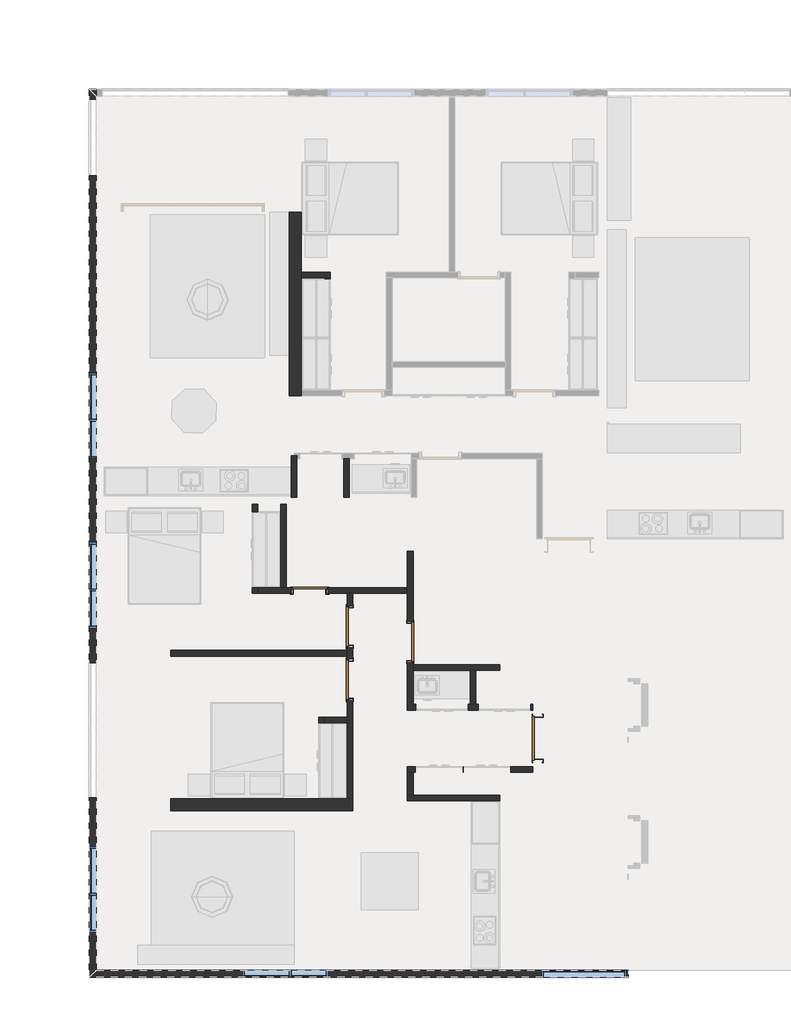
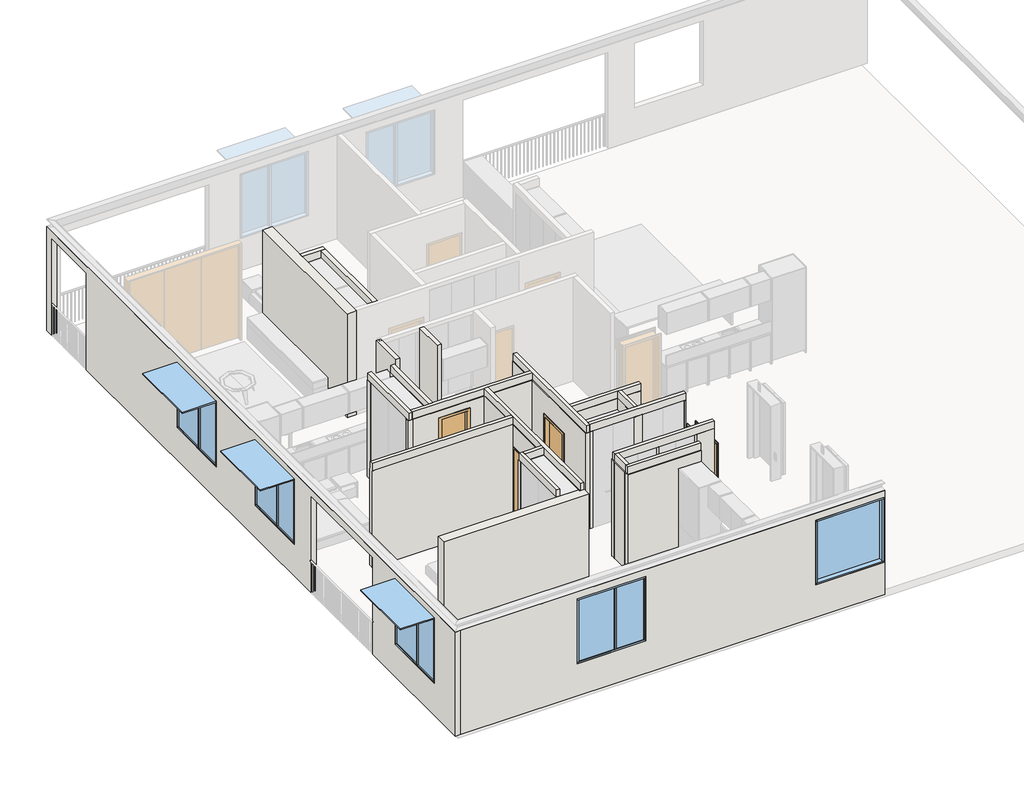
# One storey, part 1 of 5: 22 walls, 5 doors, 5 windows.
"""IFC4 building model written with IfcOpenShell, lengths in millimetres."""

from ifc_helpers import new_model, si_unit, frame, origin, place, context, project, spatial, polyline, outline, extrude, faceted_brep, transform, mapped, element, save
from components import swing_metal_frame_single_dor_92586886, swing_metal_frame_single_dor_60e0689a, swing_metal_frame_single_dor_f69b6a02, swing_metal_frame_single_dor1_3ff59273, window_bottom_hung_window_bottom_hung_09912109, window_bottom_hung_window_bottom_hung_26d81d5b, window_fixed_1800mm_wide_217cd763

model = new_model("IFC4")

# Units and contexts
model_context = context("Model", 3, world=origin())
ifc_project = project(units=[si_unit("LENGTHUNIT", "METRE", prefix="MILLI")], contexts=[model_context])

# Site, building, storey
site = spatial("IfcSite", under=ifc_project)
building = spatial("IfcBuilding", under=site)
storey = spatial("IfcBuildingStorey", under=building, Name="10階", Elevation=57800.0)

# Doors
placement = place(None, origin())
swing_metal_frame_single_dor_shape = swing_metal_frame_single_dor_92586886(model_context)
element("IfcDoor", 1, ObjectType="Swing_Metal Frame_Single_DOR : 2040h x 820 (2110x920 STUD)", at=placement, inside=storey, context=model_context, shape_type="MappedRepresentation", body=[
    mapped(swing_metal_frame_single_dor_shape, transform((7848.3164613, 6296.2680774, 57800.0), x_axis=(0.0, -1.0, 0.0), y_axis=(1.0, 0.0, 0.0), z_axis=(0.0, 0.0, 1.0))),
])
element("IfcDoor", 2, ObjectType="Swing_Metal Frame_Single_DOR : 2040h x 820 (2110x920 STUD)", at=placement, inside=storey, context=model_context, shape_type="MappedRepresentation", body=[
    mapped(swing_metal_frame_single_dor_shape, transform((9116.3164613, 7092.2680774, 57800.0), x_axis=(0.0, 1.0, 0.0), y_axis=(-1.0, 0.0, 0.0), z_axis=(0.0, 0.0, 1.0))),
])
swing_metal_frame_single_dor_2_shape = swing_metal_frame_single_dor_60e0689a(model_context)
element("IfcDoor", 3, ObjectType="Swing_Metal Frame_Single_DOR : 2040h x 820 (2110x920 STUD)", at=placement, inside=storey, context=model_context, shape_type="MappedRepresentation", body=[
    mapped(swing_metal_frame_single_dor_2_shape, transform((7848.3164613, 7414.2680774, 57800.0), x_axis=(0.0, 1.0, 0.0), y_axis=(-1.0, 0.0, 0.0), z_axis=(0.0, 0.0, 1.0))),
])
swing_metal_frame_single_dor_3_shape = swing_metal_frame_single_dor_f69b6a02(model_context)
element("IfcDoor", 4, ObjectType="Swing_Metal Frame_Single_DOR : 2040h x 920 (2110x1020 STUD)", at=placement, inside=storey, context=model_context, shape_type="MappedRepresentation", body=[
    mapped(swing_metal_frame_single_dor_3_shape, transform((11794.6062665, 5066.6339478, 57800.0), x_axis=(0.0, 1.0, 0.0), y_axis=(-1.0, 0.0, 0.0), z_axis=(0.0, 0.0, 1.0))),
])
swing_metal_frame_single_dor1_shape = swing_metal_frame_single_dor1_3ff59273(model_context)
element("IfcDoor", 5, ObjectType="Swing_Metal Frame_Single_DOR1 : 2040h x 720 (2110x820 STUD)", at=placement, inside=storey, context=model_context, shape_type="MappedRepresentation", body=[
    mapped(swing_metal_frame_single_dor1_shape, transform((7002.6057353, 8173.2680774, 57800.0), x_axis=(1.0, 0.0, 0.0), y_axis=(0.0, 1.0, 0.0), z_axis=(0.0, 0.0, 1.0))),
])

# Walls
element("IfcWall", 6, ObjectType="Whte Paint Finish", at=placement, inside=storey, context=model_context, shape_type="SweptSolid", body=[
    extrude(outline(polyline([(57800.0, 2519.6057353), (57800.0, 13694.6062665), (60700.0, 13694.6062665), (60700.0, 2519.6057353), (57800.0, 2519.6057353)]), holes=[polyline([(58700.0, 11869.6062665), (60500.0, 11869.6062665), (60500.0, 13669.6062665), (58700.0, 13669.6062665), (58700.0, 11869.6062665)]), polyline([(58700.0, 7389.6062665), (58700.0, 5589.6062665), (60500.0, 5589.6062665), (60500.0, 7389.6062665), (58700.0, 7389.6062665)])]), frame((0.0, 39.0898177, 0.0), z_axis=(0.0, 1.0, 0.0), x_axis=(0.0, 0.0, 1.0)), (0.0, 0.0, 1.0), 150.0),
])
element("IfcWall", 7, ObjectType="Whte Paint Finish", at=placement, inside=storey, context=model_context, shape_type="Brep", body=[
    faceted_brep([(2369.6057353, 18710.0, 60700.0), (2369.6057353, 39.0898177, 60700.0), (2519.6057353, 39.0898177, 60700.0), (2519.6057353, 189.0898177, 60700.0), (2519.6057353, 9989.7821797, 60700.0), (2519.6057353, 10139.7821797, 60700.0), (2519.6057353, 18560.0, 60700.0), (2519.6057353, 18710.0, 60700.0), (2519.6057353, 39.0898177, 57800.0), (2519.6057353, 189.0898177, 57800.0), (2519.6057353, 3816.2680774, 57800.0), (2519.6057353, 3816.2680774, 60500.0), (2519.6057353, 6650.3166994, 60500.0), (2519.6057353, 6650.3166994, 57800.0), (2519.6057353, 16894.8875971, 57800.0), (2519.6057353, 16894.8875971, 60500.0), (2519.6057353, 18500.0, 60500.0), (2519.6057353, 18500.0, 57800.0), (2519.6057353, 18560.0, 57800.0), (2519.6057353, 18710.0, 57800.0), (2519.6057353, 10950.7680774, 58700.0), (2519.6057353, 10950.7680774, 60500.0), (2519.6057353, 12750.7680774, 60500.0), (2519.6057353, 12750.7680774, 58700.0), (2519.6057353, 990.6340387, 58700.0), (2519.6057353, 990.6340387, 60500.0), (2519.6057353, 2790.6340387, 60500.0), (2519.6057353, 2790.6340387, 58700.0), (2519.6057353, 7385.3166994, 58700.0), (2519.6057353, 7385.3166994, 60500.0), (2519.6057353, 9185.3166994, 60500.0), (2519.6057353, 9185.3166994, 58700.0), (2369.6057353, 18710.0, 57800.0), (2369.6057353, 18500.0, 57800.0), (2369.6057353, 18500.0, 60500.0), (2369.6057353, 16894.8875971, 60500.0), (2369.6057353, 16894.8875971, 57800.0), (2369.6057353, 6650.3166994, 57800.0), (2369.6057353, 6650.3166994, 60500.0), (2369.6057353, 3816.2680774, 60500.0), (2369.6057353, 3816.2680774, 57800.0), (2369.6057353, 39.0898177, 57800.0), (2369.6057353, 10950.7680774, 58700.0), (2369.6057353, 12750.7680774, 58700.0), (2369.6057353, 12750.7680774, 60500.0), (2369.6057353, 10950.7680774, 60500.0), (2369.6057353, 990.6340387, 58700.0), (2369.6057353, 2790.6340387, 58700.0), (2369.6057353, 2790.6340387, 60500.0), (2369.6057353, 990.6340387, 60500.0), (2369.6057353, 7385.3166994, 58700.0), (2369.6057353, 9185.3166994, 58700.0), (2369.6057353, 9185.3166994, 60500.0), (2369.6057353, 7385.3166994, 60500.0)], [[[0, 1, 2, 3, 4, 5, 6, 7]], [[7, 6, 5, 4, 3, 2, 8, 9, 10, 11, 12, 13, 14, 15, 16, 17, 18, 19], [20, 21, 22, 23], [24, 25, 26, 27], [28, 29, 30, 31]], [[1, 0, 32, 33, 34, 35, 36, 37, 38, 39, 40, 41], [42, 43, 44, 45], [46, 47, 48, 49], [50, 51, 52, 53]], [[13, 37, 36, 14]], [[32, 19, 18, 17, 33]], [[10, 9, 8, 41, 40]], [[39, 11, 10, 40]], [[12, 38, 37, 13]], [[11, 39, 38, 12]], [[35, 15, 14, 36]], [[16, 34, 33, 17]], [[15, 35, 34, 16]], [[8, 2, 1, 41]], [[7, 19, 32, 0]], [[21, 20, 42, 45]], [[22, 21, 45, 44]], [[23, 22, 44, 43]], [[20, 23, 43, 42]], [[25, 24, 46, 49]], [[26, 25, 49, 48]], [[27, 26, 48, 47]], [[24, 27, 47, 46]], [[29, 28, 50, 53]], [[30, 29, 53, 52]], [[31, 30, 52, 51]], [[28, 31, 51, 50]]]),
])
element("IfcWall", 8, ObjectType="A2 - Acoustic Type 2", at=placement, inside=storey, context=model_context, shape_type="Brep", body=[
    faceted_brep([(6574.6645991, 16123.7821797, 57800.0), (6574.6645991, 12264.7821797, 57800.0), (6574.6645991, 12264.7821797, 60700.0), (6574.6645991, 16123.7821797, 60700.0), (6824.6645991, 16123.7821797, 57800.0), (6824.6645991, 16123.7821797, 60700.0), (6824.6645991, 14863.7386418, 60700.0), (6824.6645991, 14745.7386418, 60700.0), (6824.6645991, 12382.7821797, 60700.0), (6824.6645991, 12264.7821797, 60700.0), (6824.6645991, 12264.7821797, 57800.0), (6824.6645991, 12382.7821797, 57800.0), (6824.6645991, 14745.7386418, 57800.0), (6824.6645991, 14863.7386418, 57800.0)], [[[0, 1, 2, 3]], [[4, 5, 6, 7, 8, 9, 10, 11, 12, 13]], [[1, 0, 4, 13, 12, 11, 10]], [[3, 2, 9, 8, 7, 6, 5]], [[0, 3, 5, 4]], [[2, 1, 10, 9]]]),
])
element("IfcWall", 9, ObjectType="A2 - Acoustic Type 2", at=placement, inside=storey, context=model_context, shape_type="SweptSolid", body=[
    extrude(outline(polyline([(7907.3164613, 3546.2680774), (4084.6057353, 3546.2680774), (4084.6057353, 3796.2680774), (7189.3164613, 3796.2680774), (7189.3164613, 3794.2680774), (7832.3164613, 3794.2680774), (7832.3164613, 3796.2680774), (7907.3164613, 3796.2680774), (7907.3164613, 3546.2680774)])), frame((0.0, 0.0, 57800.0), z_axis=(0.0, 0.0, 1.0), x_axis=(1.0, 0.0, 0.0)), (0.0, 0.0, 1.0), 2700.0),
])
element("IfcWall", 10, ObjectType="P1 - Partition Type 1", at=placement, inside=storey, context=model_context, shape_type="Brep", body=[
    faceted_brep([(6824.6645991, 14745.7386418, 57800.0), (7316.4954006, 14745.7386418, 57800.0), (7434.4954006, 14745.7386418, 57800.0), (7434.4954006, 14745.7386418, 60700.0), (7316.4954006, 14745.7386418, 60700.0), (6824.6645991, 14745.7386418, 60700.0), (6824.6645991, 14863.7386418, 57800.0), (6824.6645991, 14863.7386418, 60700.0), (7434.4954006, 14863.7386418, 60700.0), (7434.4954006, 14863.7386418, 57800.0)], [[[0, 1, 2, 3, 4, 5]], [[6, 7, 8, 9]], [[2, 1, 0, 6, 9]], [[3, 2, 9, 8]], [[0, 5, 7, 6]], [[5, 4, 3, 8, 7]]]),
])
element("IfcWall", 11, ObjectType="P1 - Partition Type 1", at=placement, inside=storey, context=model_context, shape_type="SweptSolid", body=[
    extrude(outline(polyline([(7836.6062665, 10946.7821797), (7836.6062665, 10139.7821797), (7718.6062665, 10139.7821797), (7718.6062665, 10946.7821797), (7836.6062665, 10946.7821797)])), frame((0.0, 0.0, 57800.0), z_axis=(0.0, 0.0, 1.0), x_axis=(1.0, 0.0, 0.0)), (0.0, 0.0, 1.0), 2900.0),
])
element("IfcWall", 12, ObjectType="P1 - Partition Type 1", at=placement, inside=storey, context=model_context, shape_type="SweptSolid", body=[
    extrude(outline(polyline([(14732.7821797, 60500.0), (12382.7821797, 60500.0), (12382.7821797, 60700.0), (14745.7386418, 60700.0), (14745.7386418, 57800.0), (14732.7821797, 57800.0), (14732.7821797, 60500.0)])), frame((7316.4954006, 0.0, 0.0), z_axis=(1.0, 0.0, 0.0), x_axis=(0.0, 1.0, 0.0)), (0.0, 0.0, 1.0), 118.0),
])
element("IfcWall", 13, ObjectType="P1 - Partition Type 1", at=placement, inside=storey, context=model_context, shape_type="Brep", body=[
    faceted_brep([(6394.6057353, 9989.7821797, 57800.0), (6394.6057353, 8232.2680774, 57800.0), (6394.6057353, 8232.2680774, 60500.0), (6394.6057353, 9989.7821797, 60500.0), (6512.6057353, 8232.2680774, 57800.0), (6512.6057353, 9989.7821797, 57800.0), (6512.6057353, 9989.7821797, 60500.0), (6512.6057353, 8232.2680774, 60500.0), (6499.6057353, 9989.7821797, 60500.0), (6499.6057353, 8232.2680774, 60500.0), (6499.6057353, 9989.7821797, 60700.0), (6499.6057353, 8219.2680774, 60700.0), (6499.6057353, 8219.2680774, 60500.0), (6407.6057353, 8232.2680774, 60500.0), (6407.6057353, 9989.7821797, 60500.0), (6407.6057353, 8219.2680774, 60500.0), (6407.6057353, 8219.2680774, 60700.0), (6407.6057353, 9989.7821797, 60700.0)], [[[0, 1, 2, 3]], [[4, 5, 6, 7]], [[1, 0, 5, 4]], [[7, 6, 8, 9]], [[9, 8, 10, 11, 12]], [[3, 2, 13, 14]], [[14, 13, 15, 16, 17]], [[2, 1, 4, 7, 9, 13]], [[11, 10, 17, 16]], [[15, 13, 9, 12]], [[11, 16, 15, 12]], [[0, 3, 14, 17, 10, 8, 6, 5]]]),
])
element("IfcWall", 14, ObjectType="P1 - Partition Type 1", at=placement, inside=storey, context=model_context, shape_type="Brep", body=[
    faceted_brep([(5794.6057353, 8114.2680774, 57800.0), (5794.6057353, 8114.2680774, 60500.0), (5794.6057353, 8232.2680774, 60500.0), (5794.6057353, 8232.2680774, 57800.0), (5794.6057353, 9989.7821797, 60500.0), (5794.6057353, 9989.7821797, 57800.0), (5794.6057353, 9832.2680774, 57800.0), (5794.6057353, 9832.2680774, 60500.0), (5912.6057353, 8114.2680774, 60500.0), (5912.6057353, 8114.2680774, 57800.0), (5912.6057353, 8232.2680774, 57800.0), (5912.6057353, 8232.2680774, 60500.0), (5912.6057353, 9989.7821797, 57800.0), (5912.6057353, 9989.7821797, 60500.0), (5912.6057353, 9832.2680774, 60500.0), (5912.6057353, 9832.2680774, 57800.0), (5899.6057353, 8127.2680774, 60500.0), (5807.6057353, 8127.2680774, 60500.0), (5807.6057353, 8232.2680774, 60500.0), (5899.6057353, 8232.2680774, 60500.0), (5899.6057353, 8219.2680774, 60500.0), (5899.6057353, 9989.7821797, 60500.0), (5899.6057353, 9832.2680774, 60500.0), (5807.6057353, 9989.7821797, 60500.0), (5807.6057353, 9832.2680774, 60500.0), (5899.6057353, 9989.7821797, 60700.0), (5899.6057353, 8219.2680774, 60700.0), (5899.6057353, 8127.2680774, 60700.0), (5807.6057353, 8127.2680774, 60700.0), (5807.6057353, 9989.7821797, 60700.0)], [[[0, 1, 2, 3]], [[4, 5, 6, 7]], [[8, 9, 10, 11]], [[12, 13, 14, 15]], [[9, 0, 3, 10]], [[5, 12, 15, 6]], [[16, 17, 18, 2, 1, 8, 11, 19, 20]], [[13, 21, 22, 14]], [[23, 4, 7, 24]], [[25, 26, 27, 16, 20, 19, 22, 21]], [[28, 29, 23, 24, 18, 17]], [[24, 22, 19, 18]], [[22, 24, 7, 6, 15, 14]], [[18, 19, 11, 10, 3, 2]], [[1, 0, 9, 8]], [[27, 26, 25, 29, 28]], [[17, 16, 27, 28]], [[5, 4, 23, 29, 25, 21, 13, 12]]]),
])
element("IfcWall", 15, ObjectType="P1 - Partition Type 1", at=placement, inside=storey, context=model_context, shape_type="Brep", body=[
    faceted_brep([(4084.6057353, 6796.2680774, 57800.0), (7789.3164613, 6796.2680774, 57800.0), (7789.3164613, 6796.2680774, 60500.0), (4084.6057353, 6796.2680774, 60500.0), (7789.3164613, 6914.2680774, 57800.0), (4084.6057353, 6914.2680774, 57800.0), (4084.6057353, 6914.2680774, 60500.0), (7789.3164613, 6914.2680774, 60500.0), (4084.6057353, 6809.2680774, 60500.0), (4084.6057353, 6809.2680774, 60700.0), (4084.6057353, 6901.2680774, 60700.0), (4084.6057353, 6901.2680774, 60500.0), (7789.3164613, 6901.2680774, 60500.0), (7802.3164613, 6901.2680774, 60700.0), (7802.3164613, 6901.2680774, 60500.0), (7789.3164613, 6809.2680774, 60500.0), (7802.3164613, 6809.2680774, 60500.0), (7802.3164613, 6809.2680774, 60700.0)], [[[0, 1, 2, 3]], [[4, 5, 6, 7]], [[1, 0, 5, 4]], [[0, 3, 8, 9, 10, 11, 6, 5]], [[7, 6, 11, 12]], [[12, 11, 10, 13, 14]], [[3, 2, 15, 8]], [[8, 15, 16, 17, 9]], [[2, 1, 4, 7, 12, 15]], [[13, 10, 9, 17]], [[16, 15, 12, 14]], [[13, 17, 16, 14]]]),
])
element("IfcWall", 16, ObjectType="P1 - Partition Type 1", at=placement, inside=storey, context=model_context, shape_type="Brep", body=[
    faceted_brep([(7789.3164613, 3746.2680774, 57800.0), (7789.3164613, 3746.2680774, 60500.0), (7789.3164613, 5394.2680774, 60500.0), (7789.3164613, 5512.2680774, 60500.0), (7789.3164613, 6796.2680774, 60500.0), (7789.3164613, 6914.2680774, 60500.0), (7789.3164613, 8114.2680774, 60500.0), (7789.3164613, 8114.2680774, 57800.0), (7789.3164613, 7854.2680774, 57800.0), (7789.3164613, 7854.2680774, 59890.0), (7789.3164613, 6974.2680774, 59890.0), (7789.3164613, 6974.2680774, 57800.0), (7789.3164613, 6914.2680774, 57800.0), (7789.3164613, 6796.2680774, 57800.0), (7789.3164613, 6736.2680774, 57800.0), (7789.3164613, 6736.2680774, 59890.0), (7789.3164613, 5856.2680774, 59890.0), (7789.3164613, 5856.2680774, 57800.0), (7789.3164613, 5512.2680774, 57800.0), (7789.3164613, 5394.2680774, 57800.0), (7907.3164613, 3746.2680774, 60500.0), (7907.3164613, 3746.2680774, 57800.0), (7907.3164613, 5856.2680774, 57800.0), (7907.3164613, 5856.2680774, 59890.0), (7907.3164613, 6736.2680774, 59890.0), (7907.3164613, 6736.2680774, 57800.0), (7907.3164613, 6974.2680774, 57800.0), (7907.3164613, 6974.2680774, 59890.0), (7907.3164613, 7854.2680774, 59890.0), (7907.3164613, 7854.2680774, 57800.0), (7907.3164613, 8114.2680774, 57800.0), (7907.3164613, 8114.2680774, 60500.0), (7894.3164613, 3746.2680774, 60500.0), (7894.3164613, 3746.2680774, 60700.0), (7802.3164613, 3746.2680774, 60700.0), (7802.3164613, 3746.2680774, 60500.0), (7894.3164613, 8114.2680774, 60500.0), (7894.3164613, 8127.2680774, 60500.0), (7894.3164613, 8127.2680774, 60700.0), (7802.3164613, 5407.2680774, 60500.0), (7802.3164613, 5499.2680774, 60500.0), (7802.3164613, 6809.2680774, 60500.0), (7802.3164613, 6901.2680774, 60500.0), (7802.3164613, 8114.2680774, 60500.0), (7802.3164613, 5407.2680774, 60700.0), (7802.3164613, 5499.2680774, 60700.0), (7802.3164613, 6809.2680774, 60700.0), (7802.3164613, 6901.2680774, 60700.0), (7802.3164613, 8127.2680774, 60700.0), (7802.3164613, 8127.2680774, 60500.0)], [[[0, 1, 2, 3, 4, 5, 6, 7, 8, 9, 10, 11, 12, 13, 14, 15, 16, 17, 18, 19]], [[20, 21, 22, 23, 24, 25, 26, 27, 28, 29, 30, 31]], [[21, 0, 19, 18, 17, 22]], [[25, 14, 13, 12, 11, 26]], [[7, 30, 29, 8]], [[1, 0, 21, 20, 32, 33, 34, 35]], [[20, 31, 36, 32]], [[33, 32, 36, 37, 38]], [[6, 5, 4, 3, 2, 1, 35, 39, 40, 41, 42, 43]], [[43, 42, 41, 40, 39, 35, 34, 44, 45, 46, 47, 48, 49]], [[34, 33, 38, 48, 47, 46, 45, 44]], [[16, 23, 22, 17]], [[23, 16, 15, 24]], [[24, 15, 14, 25]], [[28, 9, 8, 29]], [[9, 28, 27, 10]], [[10, 27, 26, 11]], [[7, 6, 43, 36, 31, 30]], [[37, 36, 43, 49]], [[48, 38, 37, 49]]]),
])
element("IfcWall", 17, ObjectType="P1 - Partition Type 1", at=placement, inside=storey, context=model_context, shape_type="Brep", body=[
    faceted_brep([(9116.3164613, 8232.2680774, 60500.0), (9116.3164613, 8232.2680774, 57800.0), (7392.6057353, 8232.2680774, 57800.0), (7392.6057353, 8232.2680774, 60290.0), (6612.6057353, 8232.2680774, 60290.0), (6612.6057353, 8232.2680774, 57800.0), (6512.6057353, 8232.2680774, 57800.0), (6394.6057353, 8232.2680774, 57800.0), (5912.6057353, 8232.2680774, 57800.0), (5912.6057353, 8232.2680774, 60500.0), (6394.6057353, 8232.2680774, 60500.0), (6407.6057353, 8232.2680774, 60500.0), (6499.6057353, 8232.2680774, 60500.0), (6512.6057353, 8232.2680774, 60500.0), (9116.3164613, 8114.2680774, 57800.0), (9116.3164613, 8114.2680774, 60500.0), (7907.3164613, 8114.2680774, 60500.0), (7894.3164613, 8114.2680774, 60500.0), (7802.3164613, 8114.2680774, 60500.0), (7789.3164613, 8114.2680774, 60500.0), (5912.6057353, 8114.2680774, 60500.0), (5912.6057353, 8114.2680774, 57800.0), (6612.6057353, 8114.2680774, 57800.0), (6612.6057353, 8114.2680774, 60290.0), (7392.6057353, 8114.2680774, 60290.0), (7392.6057353, 8114.2680774, 57800.0), (7789.3164613, 8114.2680774, 57800.0), (7907.3164613, 8114.2680774, 57800.0), (9116.3164613, 8219.2680774, 60500.0), (9116.3164613, 8219.2680774, 60700.0), (9116.3164613, 8127.2680774, 60700.0), (9116.3164613, 8127.2680774, 60500.0), (7894.3164613, 8127.2680774, 60500.0), (7802.3164613, 8127.2680774, 60500.0), (5912.6057353, 8127.2680774, 60500.0), (7894.3164613, 8127.2680774, 60700.0), (7802.3164613, 8127.2680774, 60700.0), (5899.6057353, 8127.2680774, 60700.0), (5899.6057353, 8127.2680774, 60500.0), (5912.6057353, 8219.2680774, 60500.0), (6407.6057353, 8219.2680774, 60500.0), (6499.6057353, 8219.2680774, 60500.0), (5899.6057353, 8219.2680774, 60500.0), (5899.6057353, 8219.2680774, 60700.0), (6407.6057353, 8219.2680774, 60700.0), (6499.6057353, 8219.2680774, 60700.0)], [[[0, 1, 2, 3, 4, 5, 6, 7, 8, 9, 10, 11, 12, 13]], [[14, 15, 16, 17, 18, 19, 20, 21, 22, 23, 24, 25, 26, 27]], [[1, 14, 27, 26, 25, 2]], [[5, 22, 21, 8, 7, 6]], [[1, 0, 28, 29, 30, 31, 15, 14]], [[15, 31, 32, 33, 34, 20, 19, 18, 17, 16]], [[31, 30, 35, 36, 37, 38, 34, 33, 32]], [[28, 0, 13, 12, 11, 10, 9, 39, 40, 41]], [[29, 28, 41, 40, 39, 42, 43, 44, 45]], [[3, 2, 25, 24]], [[4, 3, 24, 23]], [[5, 4, 23, 22]], [[9, 8, 21, 20, 34, 39]], [[30, 29, 45, 44, 43, 37, 36, 35]], [[42, 39, 34, 38]], [[37, 43, 42, 38]]]),
])
element("IfcWall", 18, ObjectType="P1 - Partition Type 1", at=placement, inside=storey, context=model_context, shape_type="Brep", body=[
    faceted_brep([(7189.3164613, 5512.2680774, 60500.0), (7189.3164613, 5512.2680774, 57800.0), (7189.3164613, 5394.2680774, 57800.0), (7189.3164613, 5394.2680774, 60500.0), (7307.3164613, 5512.2680774, 57800.0), (7307.3164613, 5512.2680774, 60500.0), (7307.3164613, 5394.2680774, 60500.0), (7307.3164613, 5394.2680774, 57800.0), (7202.3164613, 5499.2680774, 60500.0), (7294.3164613, 5499.2680774, 60500.0), (7294.3164613, 5407.2680774, 60500.0), (7294.3164613, 5394.2680774, 60500.0), (7202.3164613, 5394.2680774, 60500.0), (7294.3164613, 5499.2680774, 60700.0), (7294.3164613, 5407.2680774, 60700.0), (7294.3164613, 3796.2680774, 60700.0), (7294.3164613, 3796.2680774, 60500.0), (7202.3164613, 3796.2680774, 60700.0), (7202.3164613, 5499.2680774, 60700.0), (7202.3164613, 3796.2680774, 60500.0)], [[[0, 1, 2, 3]], [[4, 5, 6, 7]], [[1, 4, 7, 2]], [[8, 9, 10, 11, 6, 5, 0, 3, 12]], [[13, 14, 15, 16, 11, 10, 9]], [[17, 18, 8, 12, 19]], [[12, 11, 16, 19]], [[11, 12, 3, 2, 7, 6]], [[1, 0, 5, 4]], [[16, 15, 17, 19]], [[15, 14, 13, 18, 17]], [[9, 8, 18, 13]]]),
])
element("IfcWall", 19, ObjectType="P1 - Partition Type 1", at=placement, inside=storey, context=model_context, shape_type="Brep", body=[
    faceted_brep([(7307.3164613, 5394.2680774, 57800.0), (7789.3164613, 5394.2680774, 57800.0), (7789.3164613, 5394.2680774, 60500.0), (7307.3164613, 5394.2680774, 60500.0), (7789.3164613, 5512.2680774, 57800.0), (7307.3164613, 5512.2680774, 57800.0), (7307.3164613, 5512.2680774, 60500.0), (7789.3164613, 5512.2680774, 60500.0), (7307.3164613, 5499.2680774, 60500.0), (7789.3164613, 5499.2680774, 60500.0), (7294.3164613, 5499.2680774, 60500.0), (7294.3164613, 5499.2680774, 60700.0), (7802.3164613, 5499.2680774, 60700.0), (7802.3164613, 5499.2680774, 60500.0), (7789.3164613, 5407.2680774, 60500.0), (7307.3164613, 5407.2680774, 60500.0), (7802.3164613, 5407.2680774, 60500.0), (7802.3164613, 5407.2680774, 60700.0), (7294.3164613, 5407.2680774, 60700.0), (7294.3164613, 5407.2680774, 60500.0)], [[[0, 1, 2, 3]], [[4, 5, 6, 7]], [[1, 0, 5, 4]], [[7, 6, 8, 9]], [[9, 8, 10, 11, 12, 13]], [[3, 2, 14, 15]], [[15, 14, 16, 17, 18, 19]], [[2, 1, 4, 7, 9, 14]], [[0, 3, 15, 8, 6, 5]], [[18, 17, 12, 11]], [[16, 14, 9, 13]], [[12, 17, 16, 13]], [[10, 8, 15, 19]], [[18, 11, 10, 19]]]),
])
element("IfcWall", 20, ObjectType="P1 - Partition Type 1", at=placement, inside=storey, context=model_context, shape_type="Brep", body=[
    faceted_brep([(9057.3164613, 3755.0, 57800.0), (10994.6062665, 3755.0, 57800.0), (10994.6062665, 3755.0, 60500.0), (9057.3164613, 3755.0, 60500.0), (10994.6062665, 3873.0, 57800.0), (9175.3164613, 3873.0, 57800.0), (9057.3164613, 3873.0, 57800.0), (9057.3164613, 3873.0, 60500.0), (9175.3164613, 3873.0, 60500.0), (10994.6062665, 3873.0, 60500.0), (10994.6062665, 3768.0, 60500.0), (9070.3164613, 3768.0, 60500.0), (9070.3164613, 3860.0, 60500.0), (9162.3164613, 3860.0, 60500.0), (10994.6062665, 3860.0, 60500.0), (10994.6062665, 3860.0, 60700.0), (9070.3164613, 3860.0, 60700.0), (9162.3164613, 3860.0, 60700.0), (10994.6062665, 3768.0, 60700.0), (9070.3164613, 3768.0, 60700.0)], [[[0, 1, 2, 3]], [[4, 5, 6, 7, 8, 9]], [[1, 0, 6, 5, 4]], [[9, 8, 7, 3, 2, 10, 11, 12, 13, 14]], [[15, 14, 13, 12, 16, 17]], [[10, 18, 19, 11]], [[0, 3, 7, 6]], [[12, 11, 19, 16]], [[2, 1, 4, 9, 14, 15, 18, 10]], [[18, 15, 17, 16, 19]]]),
])
element("IfcWall", 21, ObjectType="P1 - Partition Type 1", at=placement, inside=storey, context=model_context, shape_type="Brep", body=[
    faceted_brep([(9175.3164613, 6496.2680774, 57800.0), (10375.3164613, 6496.2680774, 57800.0), (10493.3164613, 6496.2680774, 57800.0), (10994.6062665, 6496.2680774, 57800.0), (10994.6062665, 6496.2680774, 60500.0), (10493.3164613, 6496.2680774, 60500.0), (10375.3164613, 6496.2680774, 60500.0), (9175.3164613, 6496.2680774, 60500.0), (10994.6062665, 6614.2680774, 57800.0), (9175.3164613, 6614.2680774, 57800.0), (9175.3164613, 6614.2680774, 60500.0), (10994.6062665, 6614.2680774, 60500.0), (9175.3164613, 6601.2680774, 60500.0), (10994.6062665, 6601.2680774, 60500.0), (10994.6062665, 6601.2680774, 60700.0), (9162.3164613, 6601.2680774, 60500.0), (9162.3164613, 6601.2680774, 60700.0), (10994.6062665, 6509.2680774, 60500.0), (10480.3164613, 6509.2680774, 60500.0), (10388.3164613, 6509.2680774, 60500.0), (9175.3164613, 6509.2680774, 60500.0), (10994.6062665, 6509.2680774, 60700.0), (10480.3164613, 6509.2680774, 60700.0), (10388.3164613, 6509.2680774, 60700.0), (9162.3164613, 6509.2680774, 60700.0), (9162.3164613, 6509.2680774, 60500.0)], [[[0, 1, 2, 3, 4, 5, 6, 7]], [[8, 9, 10, 11]], [[3, 2, 1, 0, 9, 8]], [[11, 10, 12, 13]], [[14, 13, 12, 15, 16]], [[7, 6, 5, 4, 17, 18, 19, 20]], [[20, 19, 18, 17, 21, 22, 23, 24, 25]], [[0, 7, 20, 12, 10, 9]], [[15, 12, 20, 25]], [[24, 16, 15, 25]], [[4, 3, 8, 11, 13, 14, 21, 17]], [[24, 23, 22, 21, 14, 16]]]),
])
element("IfcWall", 22, ObjectType="P1 - Partition Type 1", at=placement, inside=storey, context=model_context, shape_type="Brep", body=[
    faceted_brep([(9057.3164613, 5660.2678956, 60500.0), (9057.3164613, 8996.2680774, 60500.0), (9057.3164613, 8996.2680774, 57800.0), (9057.3164613, 7532.2680774, 57800.0), (9057.3164613, 7532.2680774, 59890.0), (9057.3164613, 6652.2680774, 59890.0), (9057.3164613, 6652.2680774, 57800.0), (9057.3164613, 5660.2678956, 57800.0), (9175.3164613, 8996.2680774, 60500.0), (9175.3164613, 6614.2680774, 60500.0), (9175.3164613, 6496.2680774, 60500.0), (9175.3164613, 5778.2678956, 60500.0), (9175.3164613, 5660.2678956, 60500.0), (9175.3164613, 5660.2678956, 57800.0), (9175.3164613, 5778.2678956, 57800.0), (9175.3164613, 6496.2680774, 57800.0), (9175.3164613, 6614.2680774, 57800.0), (9175.3164613, 6652.2680774, 57800.0), (9175.3164613, 6652.2680774, 59890.0), (9175.3164613, 7532.2680774, 59890.0), (9175.3164613, 7532.2680774, 57800.0), (9175.3164613, 8996.2680774, 57800.0), (9162.3164613, 8996.2680774, 60500.0), (9162.3164613, 6601.2680774, 60500.0), (9162.3164613, 6509.2680774, 60500.0), (9162.3164613, 5765.2678956, 60500.0), (9162.3164613, 5673.2678956, 60500.0), (9070.3164613, 5673.2678956, 60500.0), (9070.3164613, 8996.2680774, 60500.0), (9162.3164613, 8996.2680774, 60700.0), (9162.3164613, 6601.2680774, 60700.0), (9162.3164613, 6509.2680774, 60700.0), (9162.3164613, 5765.2678956, 60700.0), (9162.3164613, 5673.2678956, 60700.0), (9070.3164613, 5673.2678956, 60700.0), (9070.3164613, 8996.2680774, 60700.0)], [[[0, 1, 2, 3, 4, 5, 6, 7]], [[8, 9, 10, 11, 12, 13, 14, 15, 16, 17, 18, 19, 20, 21]], [[13, 7, 6, 17, 16, 15, 14]], [[2, 21, 20, 3]], [[1, 0, 12, 11, 10, 9, 8, 22, 23, 24, 25, 26, 27, 28]], [[29, 30, 31, 32, 33, 26, 25, 24, 23, 22]], [[28, 27, 34, 35]], [[19, 4, 3, 20]], [[4, 19, 18, 5]], [[5, 18, 17, 6]], [[0, 7, 13, 12]], [[33, 32, 31, 30, 29, 35, 34]], [[27, 26, 33, 34]], [[2, 1, 28, 35, 29, 22, 8, 21]]]),
])
element("IfcWall", 23, ObjectType="P1 - Partition Type 1", at=placement, inside=storey, context=model_context, shape_type="Brep", body=[
    faceted_brep([(10225.3164613, 4355.0, 60500.0), (10225.3164613, 4355.0, 57800.0), (10227.4613639, 4355.0, 57800.0), (10227.4613639, 4355.0, 60500.0), (9057.3164613, 4355.0, 57800.0), (9175.3164613, 4355.0, 57800.0), (9225.3164613, 4355.0, 57800.0), (9225.3164613, 4355.0, 60500.0), (9175.3164613, 4355.0, 60500.0), (9057.3164613, 4355.0, 60500.0), (11694.6062665, 4355.0, 57800.0), (11694.6062665, 4355.0, 60500.0), (11227.4613639, 4355.0, 60500.0), (11227.4613639, 4355.0, 57800.0), (9225.3164613, 4473.0, 57800.0), (9057.3164613, 4473.0, 57800.0), (9057.3164613, 4473.0, 60500.0), (9225.3164613, 4473.0, 60500.0), (10225.3164613, 4473.0, 57800.0), (10225.3164613, 4473.0, 60500.0), (10227.4613639, 4473.0, 60500.0), (10227.4613639, 4473.0, 57800.0), (11694.6062665, 4473.0, 60500.0), (11694.6062665, 4473.0, 57800.0), (11227.4613639, 4473.0, 57800.0), (11227.4613639, 4473.0, 60500.0), (10225.3164613, 4368.0, 60500.0), (10227.4613639, 4368.0, 60500.0), (10225.3164613, 4460.0, 60500.0), (10227.4613639, 4460.0, 60500.0), (9225.3164613, 4368.0, 60500.0), (9162.3164613, 4368.0, 60500.0), (9070.3164613, 4368.0, 60500.0), (9070.3164613, 4460.0, 60500.0), (9225.3164613, 4460.0, 60500.0), (11694.6062665, 4460.0, 60500.0), (11227.4613639, 4460.0, 60500.0), (11694.6062665, 4368.0, 60500.0), (11227.4613639, 4368.0, 60500.0), (9070.3164613, 4460.0, 60700.0), (11694.6062665, 4460.0, 60700.0), (11694.6062665, 4368.0, 60700.0), (9162.3164613, 4368.0, 60700.0), (9070.3164613, 4368.0, 60700.0)], [[[0, 1, 2, 3]], [[4, 5, 6, 7, 8, 9]], [[10, 11, 12, 13]], [[14, 15, 16, 17]], [[18, 19, 20, 21]], [[22, 23, 24, 25]], [[1, 18, 21, 2]], [[6, 5, 4, 15, 14]], [[23, 10, 13, 24]], [[26, 0, 3, 27]], [[19, 28, 29, 20]], [[9, 8, 7, 30, 31, 32, 33, 34, 17, 16]], [[35, 22, 25, 36]], [[11, 37, 38, 12]], [[39, 40, 35, 36, 29, 28, 34, 33]], [[41, 42, 43, 32, 31, 30, 26, 27, 38, 37]], [[34, 28, 26, 30]], [[1, 0, 26, 28, 19, 18]], [[7, 6, 14, 17, 34, 30]], [[36, 38, 27, 29]], [[38, 36, 25, 24, 13, 12]], [[29, 27, 3, 2, 21, 20]], [[4, 9, 16, 15]], [[33, 32, 43, 39]], [[11, 10, 23, 22, 35, 40, 41, 37]], [[40, 39, 43, 42, 41]]]),
])
element("IfcWall", 24, ObjectType="P1 - Partition Type 1", at=placement, inside=storey, context=model_context, shape_type="Brep", body=[
    faceted_brep([(9175.3164613, 5660.2678956, 57800.0), (9235.3164613, 5660.2678956, 57800.0), (9235.3164613, 5660.2678956, 60500.0), (9175.3164613, 5660.2678956, 60500.0), (10335.3164613, 5660.2678956, 60500.0), (10335.3164613, 5660.2678956, 57800.0), (10549.9613639, 5660.2678956, 57800.0), (10549.9613639, 5660.2678956, 60500.0), (11694.6062665, 5660.2678956, 57800.0), (11694.6062665, 5660.2678956, 60500.0), (11649.9613639, 5660.2678956, 60500.0), (11649.9613639, 5660.2678956, 57800.0), (9235.3164613, 5778.2678956, 57800.0), (9175.3164613, 5778.2678956, 57800.0), (9175.3164613, 5778.2678956, 60500.0), (9235.3164613, 5778.2678956, 60500.0), (10335.3164613, 5778.2678956, 57800.0), (10335.3164613, 5778.2678956, 60500.0), (10375.3164613, 5778.2678956, 60500.0), (10493.3164613, 5778.2678956, 60500.0), (10549.9613639, 5778.2678956, 60500.0), (10549.9613639, 5778.2678956, 57800.0), (10493.3164613, 5778.2678956, 57800.0), (10375.3164613, 5778.2678956, 57800.0), (11694.6062665, 5778.2678956, 60500.0), (11694.6062665, 5778.2678956, 57800.0), (11649.9613639, 5778.2678956, 57800.0), (11649.9613639, 5778.2678956, 60500.0), (9175.3164613, 5765.2678956, 60500.0), (9235.3164613, 5765.2678956, 60500.0), (10335.3164613, 5765.2678956, 60500.0), (10388.3164613, 5765.2678956, 60500.0), (10480.3164613, 5765.2678956, 60500.0), (10549.9613639, 5765.2678956, 60500.0), (11694.6062665, 5765.2678956, 60500.0), (11649.9613639, 5765.2678956, 60500.0), (9162.3164613, 5765.2678956, 60500.0), (9162.3164613, 5765.2678956, 60700.0), (10388.3164613, 5765.2678956, 60700.0), (10480.3164613, 5765.2678956, 60700.0), (11694.6062665, 5765.2678956, 60700.0), (9235.3164613, 5673.2678956, 60500.0), (9175.3164613, 5673.2678956, 60500.0), (10335.3164613, 5673.2678956, 60500.0), (10549.9613639, 5673.2678956, 60500.0), (11694.6062665, 5673.2678956, 60500.0), (11649.9613639, 5673.2678956, 60500.0), (11694.6062665, 5673.2678956, 60700.0), (9162.3164613, 5673.2678956, 60700.0), (9162.3164613, 5673.2678956, 60500.0)], [[[0, 1, 2, 3]], [[4, 5, 6, 7]], [[8, 9, 10, 11]], [[12, 13, 14, 15]], [[16, 17, 18, 19, 20, 21, 22, 23]], [[24, 25, 26, 27]], [[1, 0, 13, 12]], [[5, 16, 23, 22, 21, 6]], [[25, 8, 11, 26]], [[15, 14, 28, 29]], [[17, 30, 31, 32, 33, 20, 19, 18]], [[34, 24, 27, 35]], [[29, 28, 36, 37, 38, 39, 40, 34, 35, 33, 32, 31, 30]], [[3, 2, 41, 42]], [[43, 4, 7, 44]], [[9, 45, 46, 10]], [[47, 48, 49, 42, 41, 43, 44, 46, 45]], [[29, 30, 43, 41]], [[2, 1, 12, 15, 29, 41]], [[5, 4, 43, 30, 17, 16]], [[44, 33, 35, 46]], [[33, 44, 7, 6, 21, 20]], [[46, 35, 27, 26, 11, 10]], [[0, 3, 42, 28, 14, 13]], [[36, 28, 42, 49]], [[48, 37, 36, 49]], [[9, 8, 25, 24, 34, 40, 47, 45]], [[48, 47, 40, 39, 38, 37]]]),
])
element("IfcWall", 25, ObjectType="P1 - Partition Type 1", at=placement, inside=storey, context=model_context, shape_type="Brep", body=[
    faceted_brep([(9175.3164613, 3873.0, 57800.0), (9175.3164613, 4355.0, 57800.0), (9175.3164613, 4355.0, 60500.0), (9175.3164613, 3873.0, 60500.0), (9057.3164613, 4355.0, 57800.0), (9057.3164613, 3873.0, 57800.0), (9057.3164613, 3873.0, 60500.0), (9057.3164613, 4355.0, 60500.0), (9070.3164613, 3873.0, 60500.0), (9070.3164613, 4355.0, 60500.0), (9070.3164613, 3860.0, 60500.0), (9070.3164613, 3860.0, 60700.0), (9070.3164613, 4368.0, 60700.0), (9070.3164613, 4368.0, 60500.0), (9162.3164613, 4355.0, 60500.0), (9162.3164613, 3873.0, 60500.0), (9162.3164613, 4368.0, 60500.0), (9162.3164613, 4368.0, 60700.0), (9162.3164613, 3860.0, 60700.0), (9162.3164613, 3860.0, 60500.0)], [[[0, 1, 2, 3]], [[4, 5, 6, 7]], [[1, 0, 5, 4]], [[7, 6, 8, 9]], [[9, 8, 10, 11, 12, 13]], [[3, 2, 14, 15]], [[15, 14, 16, 17, 18, 19]], [[0, 3, 15, 8, 6, 5]], [[10, 8, 15, 19]], [[18, 11, 10, 19]], [[2, 1, 4, 7, 9, 14]], [[18, 17, 12, 11]], [[16, 14, 9, 13]], [[12, 17, 16, 13]]]),
])
element("IfcWall", 26, ObjectType="P1 - Partition Type 1", at=placement, inside=storey, context=model_context, shape_type="SweptSolid", body=[
    extrude(outline(polyline([(6732.4645991, 11005.7821797), (6732.4645991, 10139.7821797), (6614.4645991, 10139.7821797), (6614.4645991, 11005.7821797), (6732.4645991, 11005.7821797)])), frame((0.0, 0.0, 57800.0), z_axis=(0.0, 0.0, 1.0), x_axis=(1.0, 0.0, 0.0)), (0.0, 0.0, 1.0), 2900.0),
])
element("IfcWall", 27, ObjectType="P1 - Partition Type 1", at=placement, inside=storey, context=model_context, shape_type="Brep", body=[
    faceted_brep([(10493.3164613, 5778.2678956, 57800.0), (10493.3164613, 6496.2680774, 57800.0), (10493.3164613, 6496.2680774, 60500.0), (10493.3164613, 5778.2678956, 60500.0), (10375.3164613, 6496.2680774, 57800.0), (10375.3164613, 5778.2678956, 57800.0), (10375.3164613, 5778.2678956, 60500.0), (10375.3164613, 6496.2680774, 60500.0), (10388.3164613, 5778.2678956, 60500.0), (10388.3164613, 6496.2680774, 60500.0), (10388.3164613, 5765.2678956, 60500.0), (10388.3164613, 5765.2678956, 60700.0), (10388.3164613, 6509.2680774, 60700.0), (10388.3164613, 6509.2680774, 60500.0), (10480.3164613, 6496.2680774, 60500.0), (10480.3164613, 5778.2678956, 60500.0), (10480.3164613, 6509.2680774, 60500.0), (10480.3164613, 6509.2680774, 60700.0), (10480.3164613, 5765.2678956, 60700.0), (10480.3164613, 5765.2678956, 60500.0)], [[[0, 1, 2, 3]], [[4, 5, 6, 7]], [[1, 0, 5, 4]], [[7, 6, 8, 9]], [[9, 8, 10, 11, 12, 13]], [[3, 2, 14, 15]], [[15, 14, 16, 17, 18, 19]], [[2, 1, 4, 7, 9, 14]], [[18, 17, 12, 11]], [[16, 14, 9, 13]], [[12, 17, 16, 13]], [[0, 3, 15, 8, 6, 5]], [[10, 8, 15, 19]], [[18, 11, 10, 19]]]),
])

# Windows
window_bottom_hung_window_bottom_hung_shape = window_bottom_hung_window_bottom_hung_09912109(model_context)
element("IfcWindow", 28, ObjectType="Window_Bottom Hung : Window_Bottom Hung", at=placement, inside=storey, context=model_context, shape_type="MappedRepresentation", body=[
    mapped(window_bottom_hung_window_bottom_hung_shape, transform((2444.6057353, 8285.3166994, 57700.0), x_axis=(0.0, 1.0, 0.0), y_axis=(-1.0, 0.0, 0.0), z_axis=(0.0, 0.0, 1.0))),
])
element("IfcWindow", 29, ObjectType="Window_Bottom Hung : Window_Bottom Hung", at=placement, inside=storey, context=model_context, shape_type="MappedRepresentation", body=[
    mapped(window_bottom_hung_window_bottom_hung_shape, transform((2444.6057353, 1890.6340387, 57700.0), x_axis=(0.0, 1.0, 0.0), y_axis=(-1.0, 0.0, 0.0), z_axis=(0.0, 0.0, 1.0))),
])
element("IfcWindow", 30, ObjectType="Window_Bottom Hung : Window_Bottom Hung", at=placement, inside=storey, context=model_context, shape_type="MappedRepresentation", body=[
    mapped(window_bottom_hung_window_bottom_hung_shape, transform((2444.6057353, 11850.7680774, 57700.0), x_axis=(0.0, 1.0, 0.0), y_axis=(-1.0, 0.0, 0.0), z_axis=(0.0, 0.0, 1.0))),
])
window_bottom_hung_window_bottom_hung_2_shape = window_bottom_hung_window_bottom_hung_26d81d5b(model_context)
element("IfcWindow", 31, ObjectType="Window_Bottom Hung : Window_Bottom Hung", at=placement, inside=storey, context=model_context, shape_type="MappedRepresentation", body=[
    mapped(window_bottom_hung_window_bottom_hung_2_shape, transform((6489.6062665, 114.0898177, 57700.0), x_axis=(-1.0, 0.0, 0.0), y_axis=(0.0, -1.0, 0.0), z_axis=(0.0, 0.0, 1.0))),
])
window_fixed_1800mm_wide_shape = window_fixed_1800mm_wide_217cd763(model_context)
element("IfcWindow", 32, ObjectType="Window_Fixed : 1800mm Wide", at=placement, inside=storey, context=model_context, shape_type="MappedRepresentation", body=[
    mapped(window_fixed_1800mm_wide_shape, transform((12769.6062665, 114.0898177, 58450.0), x_axis=(1.0, 0.0, 0.0), y_axis=(0.0, 1.0, 0.0), z_axis=(0.0, 0.0, 1.0))),
])

save(model, "model.ifc")
